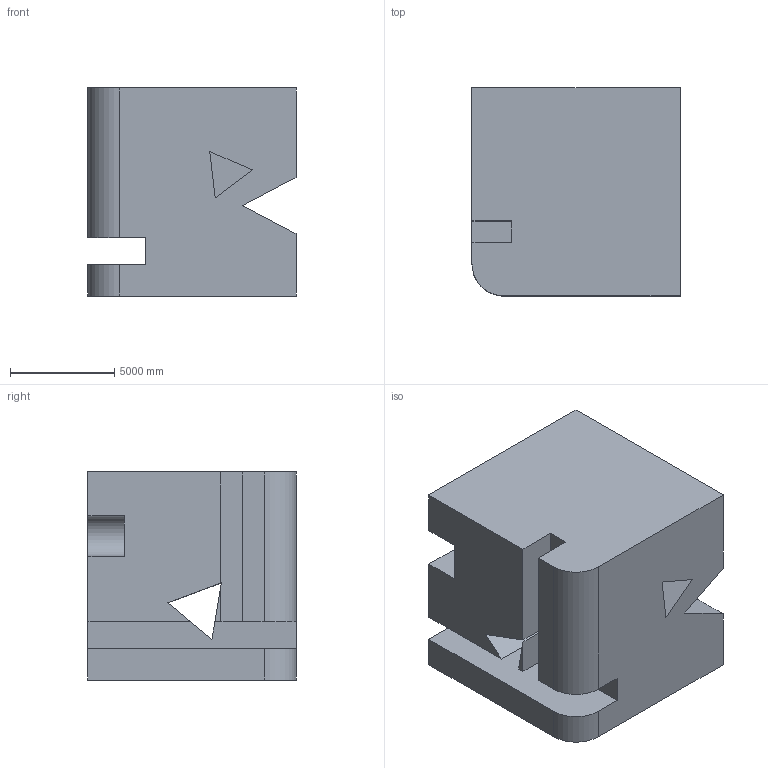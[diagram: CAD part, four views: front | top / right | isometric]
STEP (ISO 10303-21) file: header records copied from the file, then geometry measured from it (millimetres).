
FILE_DESCRIPTION (( 'STEP AP203' ), '1' );
FILE_NAME ('612.STEP', '2022-07-29T12:05:34', ( 'user' ), ( '' ), 'SwSTEP 2.0', 'SolidWorks 2021', '' );
FILE_SCHEMA (( 'CONFIG_CONTROL_DESIGN' ));
Length unit declared in the file: centimetre
Products named in the file (1): 612
Bounding box: 10000 x 10000 x 10000 mm (x, y, z)
Volume: 862022631724.2 mm3; surface area: 780475480.4 mm2
Topology: 1 solids, 1 shells, 34 faces, 99 edges, 66 vertices
Faces by surface type: plane 31, cylinder 3
Entity records: 1190 total; most frequent: CARTESIAN_POINT 200, ORIENTED_EDGE 198, DIRECTION 175, EDGE_CURVE 99, LINE 93, VECTOR 93, VERTEX_POINT 66, AXIS2_PLACEMENT_3D 41
